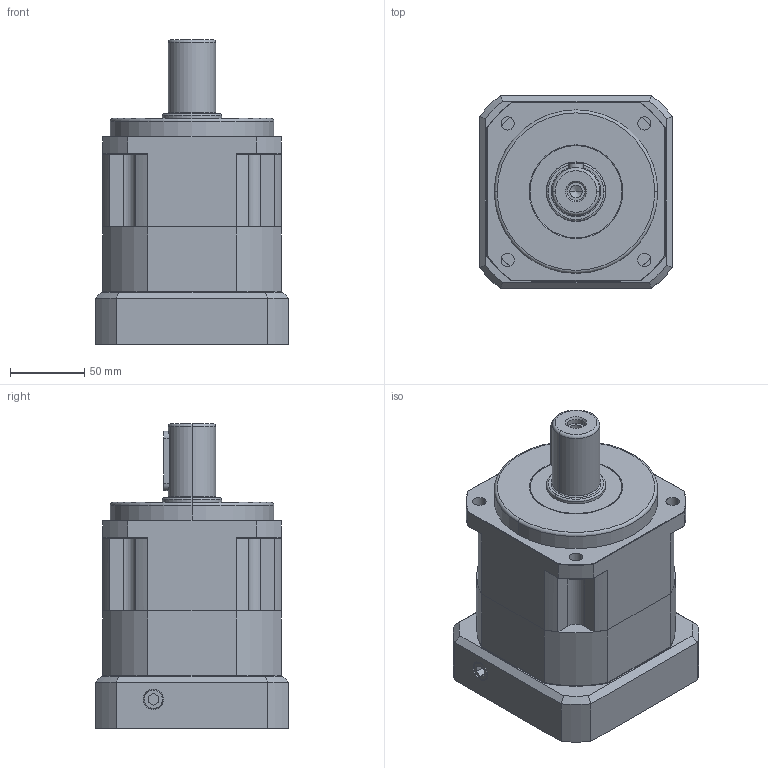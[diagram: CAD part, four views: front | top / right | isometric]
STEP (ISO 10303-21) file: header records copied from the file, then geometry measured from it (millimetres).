
FILE_DESCRIPTION (( 'STEP AP203' ), '1' );
FILE_NAME ('SB120-1-110M10.STEP', '2011-07-11T08:45:40', ( '1' ), ( '' ), 'SwSTEP 2.0', 'SolidWorks 2011', '' );
FILE_SCHEMA (( 'CONFIG_CONTROL_DESIGN' ));
Length unit declared in the file: millimetre
Products named in the file (1): SB120-1-110M10
Bounding box: 130 x 130 x 205 mm (x, y, z)
Volume: 1566019 mm3; surface area: 240416.9 mm2
Topology: 16 solids, 16 shells, 660 faces, 1597 edges, 992 vertices
Faces by surface type: plane 265, cylinder 228, cone 107, torus 33, bspline 25, sphere 2
Entity records: 21208 total; most frequent: CARTESIAN_POINT 5669, DIRECTION 3321, ORIENTED_EDGE 3136, EDGE_CURVE 1568, AXIS2_PLACEMENT_3D 1267, VERTEX_POINT 991, VECTOR 787, LINE 787
